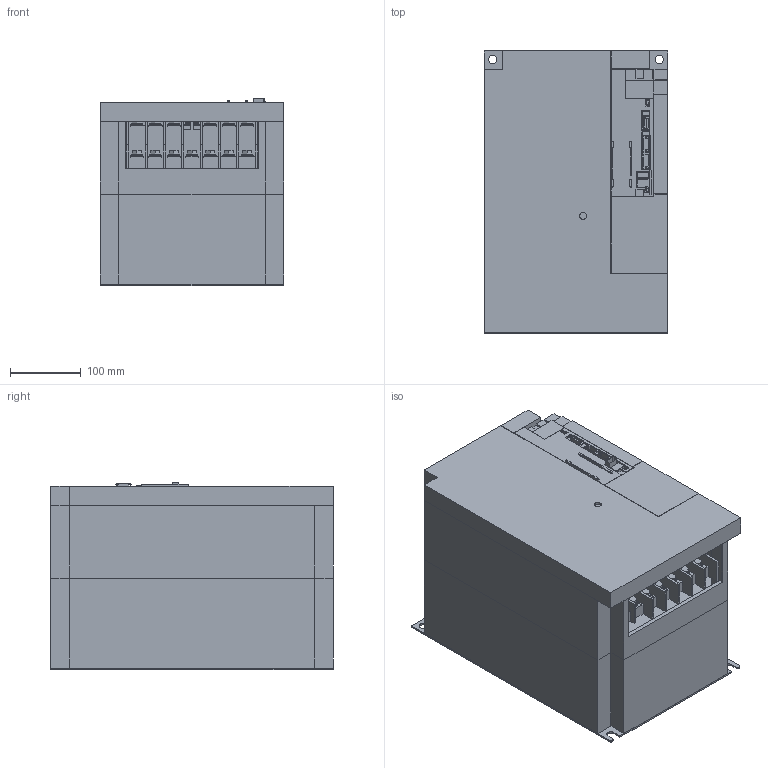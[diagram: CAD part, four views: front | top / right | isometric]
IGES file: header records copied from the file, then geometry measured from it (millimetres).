
Start section: SolidWorks IGES file using analytic representation for surfaces
Global section: file name: C:\work\mr-j3-22kb_a.igs; native system: SolidWorks 2006 by SolidWorks Corporation; preprocessor: SolidWorks 2006 by SolidWorks Corporation; author: user; date: 091201.163253; units: millimetre
Bounding box: 260 x 400 x 266 mm (x, y, z)
Volume: 14398912.6 mm3; surface area: 1565566.4 mm2
Topology: 34 solids, 34 shells, 1271 faces, 3407 edges, 2263 vertices
Faces by surface type: plane 918, revolution 347, bspline 6
